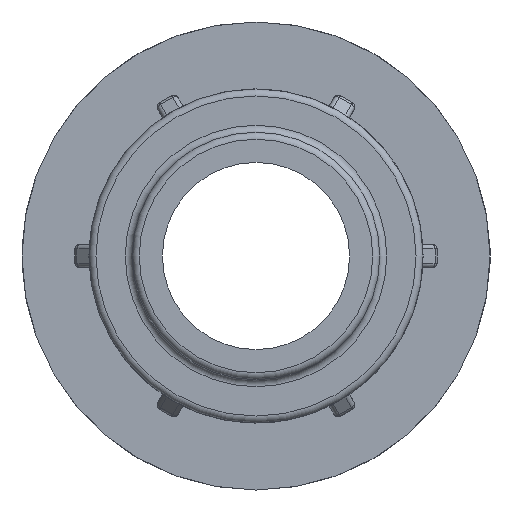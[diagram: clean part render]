
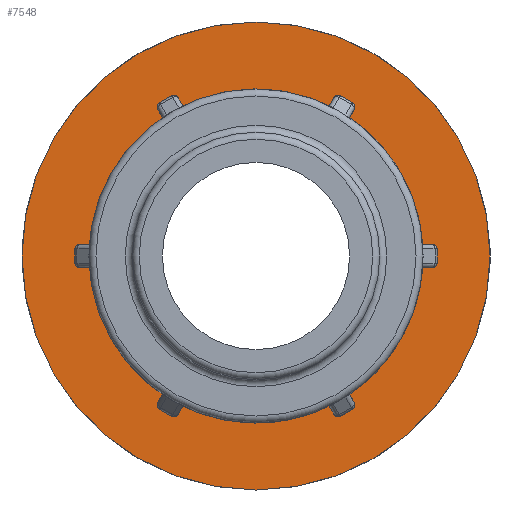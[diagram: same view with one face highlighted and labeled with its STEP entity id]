
A CAD part, left-side view. The second image highlights one B-rep face of the part: STEP entity #7548.
In plain terms, the highlighted planar face has unit normal (-1, 0, 0).
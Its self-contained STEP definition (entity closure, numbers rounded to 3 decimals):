
#26=FACE_BOUND('',#1424,.T.);
#113=ELLIPSE('',#7628,0.707,0.5);
#114=ELLIPSE('',#7649,0.707,0.5);
#117=ELLIPSE('',#7744,0.707,0.5);
#118=ELLIPSE('',#7765,0.707,0.5);
#121=ELLIPSE('',#7860,0.707,0.5);
#122=ELLIPSE('',#7881,0.707,0.5);
#125=ELLIPSE('',#7976,0.707,0.5);
#126=ELLIPSE('',#7997,0.707,0.5);
#129=ELLIPSE('',#8092,0.707,0.5);
#130=ELLIPSE('',#8113,0.707,0.5);
#134=ELLIPSE('',#8383,0.707,0.5);
#135=ELLIPSE('',#8404,0.707,0.5);
#288=PLANE('',#8471);
#943=FACE_OUTER_BOUND('',#1423,.T.);
#1423=EDGE_LOOP('',(#6832));
#1424=EDGE_LOOP('',(#6833,#6834,#6835,#6836,#6837,#6838,#6839,#6840,#6841,
#6842,#6843,#6844,#6845,#6846,#6847,#6848,#6849,#6850,#6851,#6852,#6853,
#6854,#6855,#6856));
#1476=LINE('',#11111,#1926);
#1535=LINE('',#11588,#1985);
#1594=LINE('',#12065,#2044);
#1653=LINE('',#12540,#2103);
#1712=LINE('',#13017,#2162);
#1859=LINE('',#14369,#2309);
#1926=VECTOR('',#8664,1.5);
#1985=VECTOR('',#8955,1.5);
#2044=VECTOR('',#9246,1.5);
#2103=VECTOR('',#9537,1.5);
#2162=VECTOR('',#9828,1.5);
#2309=VECTOR('',#10557,1.5);
#2755=CIRCLE('',#8309,17.485);
#2756=CIRCLE('',#8311,17.485);
#2757=CIRCLE('',#8313,17.485);
#2758=CIRCLE('',#8315,17.485);
#2759=CIRCLE('',#8317,17.485);
#2842=CIRCLE('',#8472,25.);
#2843=CIRCLE('',#8473,17.485);
#2907=VERTEX_POINT('',#11091);
#2908=VERTEX_POINT('',#11103);
#2910=VERTEX_POINT('',#11109);
#2923=VERTEX_POINT('',#11166);
#2996=VERTEX_POINT('',#11568);
#2997=VERTEX_POINT('',#11580);
#2999=VERTEX_POINT('',#11586);
#3012=VERTEX_POINT('',#11643);
#3085=VERTEX_POINT('',#12045);
#3086=VERTEX_POINT('',#12057);
#3088=VERTEX_POINT('',#12063);
#3101=VERTEX_POINT('',#12120);
#3174=VERTEX_POINT('',#12520);
#3175=VERTEX_POINT('',#12532);
#3177=VERTEX_POINT('',#12538);
#3190=VERTEX_POINT('',#12595);
#3263=VERTEX_POINT('',#12997);
#3264=VERTEX_POINT('',#13009);
#3266=VERTEX_POINT('',#13015);
#3279=VERTEX_POINT('',#13072);
#3435=VERTEX_POINT('',#14113);
#3482=VERTEX_POINT('',#14349);
#3483=VERTEX_POINT('',#14361);
#3485=VERTEX_POINT('',#14367);
#3521=VERTEX_POINT('',#14563);
#3611=EDGE_CURVE('',#2908,#2907,#113,.F.);
#3614=EDGE_CURVE('',#2908,#2910,#1476,.T.);
#3639=EDGE_CURVE('',#2910,#2923,#114,.T.);
#3753=EDGE_CURVE('',#2997,#2996,#117,.F.);
#3756=EDGE_CURVE('',#2997,#2999,#1535,.T.);
#3781=EDGE_CURVE('',#2999,#3012,#118,.T.);
#3895=EDGE_CURVE('',#3086,#3085,#121,.F.);
#3898=EDGE_CURVE('',#3086,#3088,#1594,.T.);
#3923=EDGE_CURVE('',#3088,#3101,#122,.T.);
#4037=EDGE_CURVE('',#3175,#3174,#125,.F.);
#4040=EDGE_CURVE('',#3175,#3177,#1653,.T.);
#4065=EDGE_CURVE('',#3177,#3190,#126,.T.);
#4179=EDGE_CURVE('',#3264,#3263,#129,.F.);
#4182=EDGE_CURVE('',#3264,#3266,#1712,.T.);
#4207=EDGE_CURVE('',#3266,#3279,#130,.T.);
#4483=EDGE_CURVE('',#3263,#3435,#2755,.F.);
#4486=EDGE_CURVE('',#3279,#3174,#2756,.T.);
#4487=EDGE_CURVE('',#3190,#3085,#2757,.T.);
#4488=EDGE_CURVE('',#3101,#2996,#2758,.T.);
#4489=EDGE_CURVE('',#3012,#2907,#2759,.T.);
#4567=EDGE_CURVE('',#3483,#3482,#134,.F.);
#4570=EDGE_CURVE('',#3483,#3485,#1859,.T.);
#4594=EDGE_CURVE('',#3485,#3435,#135,.T.);
#4644=EDGE_CURVE('',#3521,#3521,#2842,.T.);
#4645=EDGE_CURVE('',#2923,#3482,#2843,.T.);
#6832=ORIENTED_EDGE('',*,*,#4644,.F.);
#6833=ORIENTED_EDGE('',*,*,#4645,.T.);
#6834=ORIENTED_EDGE('',*,*,#4567,.F.);
#6835=ORIENTED_EDGE('',*,*,#4570,.T.);
#6836=ORIENTED_EDGE('',*,*,#4594,.T.);
#6837=ORIENTED_EDGE('',*,*,#4483,.F.);
#6838=ORIENTED_EDGE('',*,*,#4179,.F.);
#6839=ORIENTED_EDGE('',*,*,#4182,.T.);
#6840=ORIENTED_EDGE('',*,*,#4207,.T.);
#6841=ORIENTED_EDGE('',*,*,#4486,.T.);
#6842=ORIENTED_EDGE('',*,*,#4037,.F.);
#6843=ORIENTED_EDGE('',*,*,#4040,.T.);
#6844=ORIENTED_EDGE('',*,*,#4065,.T.);
#6845=ORIENTED_EDGE('',*,*,#4487,.T.);
#6846=ORIENTED_EDGE('',*,*,#3895,.F.);
#6847=ORIENTED_EDGE('',*,*,#3898,.T.);
#6848=ORIENTED_EDGE('',*,*,#3923,.T.);
#6849=ORIENTED_EDGE('',*,*,#4488,.T.);
#6850=ORIENTED_EDGE('',*,*,#3753,.F.);
#6851=ORIENTED_EDGE('',*,*,#3756,.T.);
#6852=ORIENTED_EDGE('',*,*,#3781,.T.);
#6853=ORIENTED_EDGE('',*,*,#4489,.T.);
#6854=ORIENTED_EDGE('',*,*,#3611,.F.);
#6855=ORIENTED_EDGE('',*,*,#3614,.T.);
#6856=ORIENTED_EDGE('',*,*,#3639,.T.);
#7548=ADVANCED_FACE('',(#943,#26),#288,.T.);
#7628=AXIS2_PLACEMENT_3D('',#11105,#8658,#8659);
#7649=AXIS2_PLACEMENT_3D('',#11167,#8720,#8721);
#7744=AXIS2_PLACEMENT_3D('',#11582,#8949,#8950);
#7765=AXIS2_PLACEMENT_3D('',#11644,#9011,#9012);
#7860=AXIS2_PLACEMENT_3D('',#12059,#9240,#9241);
#7881=AXIS2_PLACEMENT_3D('',#12121,#9302,#9303);
#7976=AXIS2_PLACEMENT_3D('',#12534,#9531,#9532);
#7997=AXIS2_PLACEMENT_3D('',#12596,#9593,#9594);
#8092=AXIS2_PLACEMENT_3D('',#13011,#9822,#9823);
#8113=AXIS2_PLACEMENT_3D('',#13073,#9884,#9885);
#8309=AXIS2_PLACEMENT_3D('',#14114,#10371,#10372);
#8311=AXIS2_PLACEMENT_3D('',#14130,#10375,#10376);
#8313=AXIS2_PLACEMENT_3D('',#14132,#10379,#10380);
#8315=AXIS2_PLACEMENT_3D('',#14134,#10383,#10384);
#8317=AXIS2_PLACEMENT_3D('',#14136,#10387,#10388);
#8383=AXIS2_PLACEMENT_3D('',#14363,#10551,#10552);
#8404=AXIS2_PLACEMENT_3D('',#14417,#10613,#10614);
#8471=AXIS2_PLACEMENT_3D('',#14562,#10762,#10763);
#8472=AXIS2_PLACEMENT_3D('',#14564,#10764,#10765);
#8473=AXIS2_PLACEMENT_3D('',#14565,#10766,#10767);
#8658=DIRECTION('center_axis',(1.,0.,0.));
#8659=DIRECTION('ref_axis',(0.,0.5,-0.866));
#8664=DIRECTION('',(0.,0.866,0.5));
#8720=DIRECTION('center_axis',(1.,0.,0.));
#8721=DIRECTION('ref_axis',(0.,0.5,-0.866));
#8949=DIRECTION('center_axis',(1.,0.,0.));
#8950=DIRECTION('ref_axis',(0.,-0.5,-0.866));
#8955=DIRECTION('',(0.,0.866,-0.5));
#9011=DIRECTION('center_axis',(1.,0.,0.));
#9012=DIRECTION('ref_axis',(0.,-0.5,-0.866));
#9240=DIRECTION('center_axis',(1.,0.,0.));
#9241=DIRECTION('ref_axis',(0.,-1.,0.));
#9246=DIRECTION('',(0.,0.,-1.));
#9302=DIRECTION('center_axis',(1.,0.,0.));
#9303=DIRECTION('ref_axis',(0.,-1.,0.));
#9531=DIRECTION('center_axis',(1.,0.,0.));
#9532=DIRECTION('ref_axis',(0.,-0.5,0.866));
#9537=DIRECTION('',(0.,-0.866,-0.5));
#9593=DIRECTION('center_axis',(1.,0.,0.));
#9594=DIRECTION('ref_axis',(0.,-0.5,0.866));
#9822=DIRECTION('center_axis',(1.,0.,0.));
#9823=DIRECTION('ref_axis',(0.,0.5,0.866));
#9828=DIRECTION('',(0.,-0.866,0.5));
#9884=DIRECTION('center_axis',(1.,0.,0.));
#9885=DIRECTION('ref_axis',(0.,0.5,0.866));
#10371=DIRECTION('center_axis',(1.,0.,0.));
#10372=DIRECTION('ref_axis',(0.,1.,0.));
#10375=DIRECTION('center_axis',(1.,0.,0.));
#10376=DIRECTION('ref_axis',(0.,1.,0.));
#10379=DIRECTION('center_axis',(1.,0.,0.));
#10380=DIRECTION('ref_axis',(0.,1.,0.));
#10383=DIRECTION('center_axis',(1.,0.,0.));
#10384=DIRECTION('ref_axis',(0.,1.,0.));
#10387=DIRECTION('center_axis',(1.,0.,0.));
#10388=DIRECTION('ref_axis',(0.,1.,0.));
#10551=DIRECTION('center_axis',(1.,0.,0.));
#10552=DIRECTION('ref_axis',(0.,1.,0.));
#10557=DIRECTION('',(0.,0.,1.));
#10613=DIRECTION('center_axis',(1.,0.,0.));
#10614=DIRECTION('ref_axis',(0.,1.,0.));
#10762=DIRECTION('center_axis',(-1.,0.,0.));
#10763=DIRECTION('ref_axis',(0.,0.,1.));
#10764=DIRECTION('center_axis',(1.,0.,0.));
#10765=DIRECTION('ref_axis',(0.,0.,-1.));
#10766=DIRECTION('center_axis',(1.,0.,0.));
#10767=DIRECTION('ref_axis',(0.,1.,0.));
#11091=CARTESIAN_POINT('',(19.81,7.975,-15.56));
#11103=CARTESIAN_POINT('',(19.81,8.093,-15.517));
#11105=CARTESIAN_POINT('Origin',(19.81,7.739,-14.905));
#11109=CARTESIAN_POINT('',(19.81,9.392,-14.767));
#11111=CARTESIAN_POINT('',(19.81,18.117,-9.729));
#11166=CARTESIAN_POINT('',(19.81,9.488,-14.687));
#11167=CARTESIAN_POINT('Origin',(19.81,9.038,-14.155));
#11568=CARTESIAN_POINT('',(19.81,-9.488,-14.687));
#11580=CARTESIAN_POINT('',(19.81,-9.392,-14.767));
#11582=CARTESIAN_POINT('Origin',(19.81,-9.038,-14.155));
#11586=CARTESIAN_POINT('',(19.81,-8.093,-15.517));
#11588=CARTESIAN_POINT('',(19.81,0.633,-20.555));
#11643=CARTESIAN_POINT('',(19.81,-7.975,-15.56));
#11644=CARTESIAN_POINT('Origin',(19.81,-7.739,-14.905));
#12045=CARTESIAN_POINT('',(19.81,-17.463,0.873));
#12057=CARTESIAN_POINT('',(19.81,-17.485,0.75));
#12059=CARTESIAN_POINT('Origin',(19.81,-16.777,0.75));
#12063=CARTESIAN_POINT('',(19.81,-17.485,-0.75));
#12065=CARTESIAN_POINT('',(19.81,-17.485,0.));
#12120=CARTESIAN_POINT('',(19.81,-17.463,-0.873));
#12121=CARTESIAN_POINT('Origin',(19.81,-16.777,-0.75));
#12520=CARTESIAN_POINT('',(19.81,-7.975,15.56));
#12532=CARTESIAN_POINT('',(19.81,-8.093,15.517));
#12534=CARTESIAN_POINT('Origin',(19.81,-7.739,14.905));
#12538=CARTESIAN_POINT('',(19.81,-9.392,14.767));
#12540=CARTESIAN_POINT('',(19.81,0.633,20.555));
#12595=CARTESIAN_POINT('',(19.81,-9.488,14.687));
#12596=CARTESIAN_POINT('Origin',(19.81,-9.038,14.155));
#12997=CARTESIAN_POINT('',(19.81,9.488,14.687));
#13009=CARTESIAN_POINT('',(19.81,9.392,14.767));
#13011=CARTESIAN_POINT('Origin',(19.81,9.038,14.155));
#13015=CARTESIAN_POINT('',(19.81,8.093,15.517));
#13017=CARTESIAN_POINT('',(19.81,18.117,9.729));
#13072=CARTESIAN_POINT('',(19.81,7.975,15.56));
#13073=CARTESIAN_POINT('Origin',(19.81,7.739,14.905));
#14113=CARTESIAN_POINT('',(19.81,17.463,0.873));
#14114=CARTESIAN_POINT('Origin',(19.81,0.,0.));
#14130=CARTESIAN_POINT('Origin',(19.81,0.,0.));
#14132=CARTESIAN_POINT('Origin',(19.81,0.,0.));
#14134=CARTESIAN_POINT('Origin',(19.81,0.,0.));
#14136=CARTESIAN_POINT('Origin',(19.81,0.,0.));
#14349=CARTESIAN_POINT('',(19.81,17.463,-0.873));
#14361=CARTESIAN_POINT('',(19.81,17.485,-0.75));
#14363=CARTESIAN_POINT('Origin',(19.81,16.777,-0.75));
#14367=CARTESIAN_POINT('',(19.81,17.485,0.75));
#14369=CARTESIAN_POINT('',(19.81,17.485,0.));
#14417=CARTESIAN_POINT('Origin',(19.81,16.777,0.75));
#14562=CARTESIAN_POINT('Origin',(19.81,25.,0.));
#14563=CARTESIAN_POINT('',(19.81,25.,0.));
#14564=CARTESIAN_POINT('Origin',(19.81,0.,0.));
#14565=CARTESIAN_POINT('Origin',(19.81,0.,0.));
